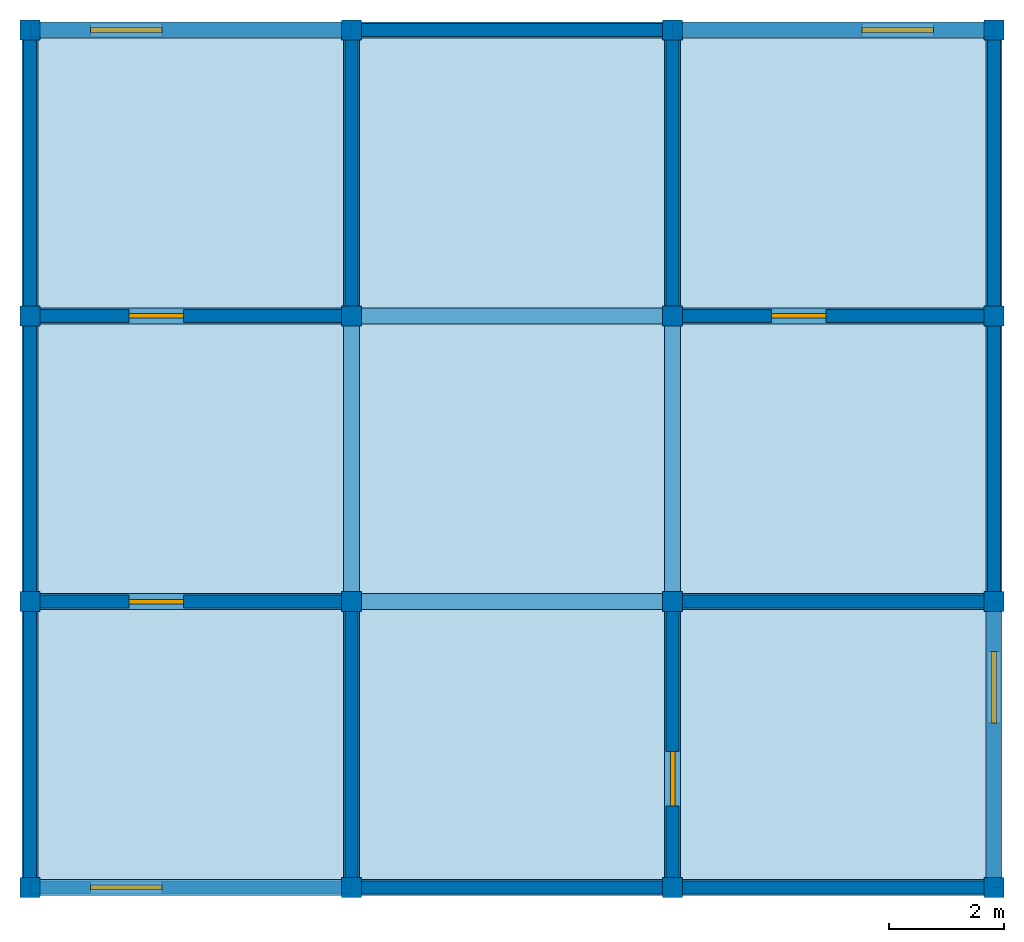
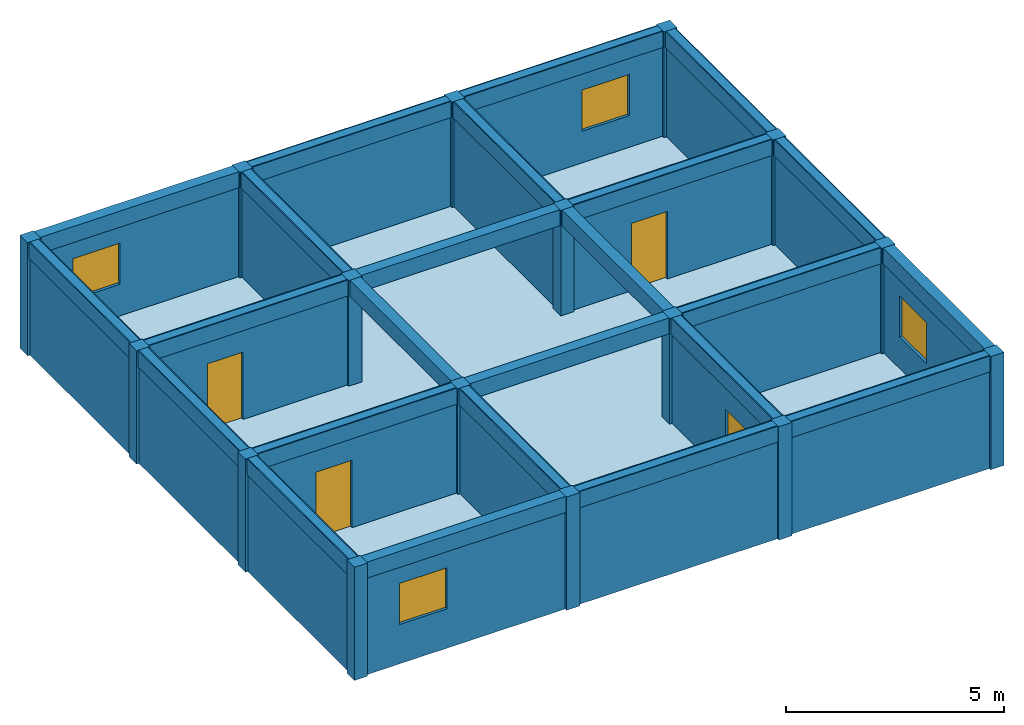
# One storey: 24 beams, 20 walls, 16 columns, 4 doors, 4 windows, 1 slab, 8 openings.
"""IFC4X3 building model written with IfcOpenShell, lengths in metres."""

from ifc_helpers import new_model, si_unit, frame, origin_with_axes, origin_2d, place, context, project, spatial, rectangle, extrude, material, element, fill, save


model = new_model("IFC4X3")

# Units and contexts
model_context = context("Model", 3, precision=1e-05, world=origin_with_axes())
ifc_project = project(units=[si_unit("LENGTHUNIT", "METRE"), si_unit("AREAUNIT", "SQUARE_METRE"), si_unit("VOLUMEUNIT", "CUBIC_METRE")], contexts=[model_context])

# Site, building, storey
site = spatial("IfcSite", under=ifc_project, Name="Puerto Montt Parcel", CompositionType="ELEMENT")
building = spatial("IfcBuilding", under=site, Name="Apex Hub", CompositionType="ELEMENT")
storey = spatial("IfcBuildingStorey", under=building, Name="Level 10", CompositionType="ELEMENT", Elevation=28.5)

# Columns
ifc_material_1 = material(Name="Timber")
column_1_placement = place(None, frame((-8.415, -7.485, 28.505), z_axis=(0.0, 0.0, 1.0), x_axis=(1.0, 0.0, 0.0)))
element("IfcColumn", 1, at=column_1_placement, inside=storey, material=ifc_material_1, Name="Column 10.1", ObjectType="Core Column", PredefinedType="PILASTER", context=model_context, shape_type="SweptSolid", body=[
    extrude(rectangle(XDim=0.35, YDim=0.35, at=origin_2d()), origin_with_axes(), (0.0, 0.0, 1.0), 3.167),
])
column_2_placement = place(None, frame((-8.415, -2.495, 28.505), z_axis=(0.0, 0.0, 1.0), x_axis=(1.0, 0.0, 0.0)))
element("IfcColumn", 2, at=column_2_placement, inside=storey, material=ifc_material_1, Name="Column 10.2", ObjectType="Core Column", PredefinedType="NOTDEFINED", context=model_context, shape_type="SweptSolid", body=[
    extrude(rectangle(XDim=0.35, YDim=0.35, at=origin_2d()), origin_with_axes(), (0.0, 0.0, 1.0), 3.167),
])
column_3_placement = place(None, frame((-8.415, 2.495, 28.505), z_axis=(0.0, 0.0, 1.0), x_axis=(1.0, 0.0, 0.0)))
element("IfcColumn", 3, at=column_3_placement, inside=storey, material=ifc_material_1, Name="Column 10.3", ObjectType="Structural Column", PredefinedType="USERDEFINED", context=model_context, shape_type="SweptSolid", body=[
    extrude(rectangle(XDim=0.35, YDim=0.35, at=origin_2d()), origin_with_axes(), (0.0, 0.0, 1.0), 3.167),
])
for number, where, z_axis, x_axis, name in (
    (4, (-8.415, 7.485, 28.505), (0.0, 0.0, 1.0), (1.0, 0.0, 0.0), "Column 10.4"),
    (5, (-2.805, -7.485, 28.505), (0.0, 0.0, 1.0), (1.0, 0.0, 0.0), "Column 10.5"),
):
    element("IfcColumn", number, at=place(None, frame(where, z_axis=z_axis, x_axis=x_axis)), inside=storey, material=ifc_material_1, Name=name, ObjectType="Structural Column", PredefinedType="COLUMN", context=model_context, shape_type="SweptSolid", body=[
        extrude(rectangle(XDim=0.35, YDim=0.35, at=origin_2d()), origin_with_axes(), (0.0, 0.0, 1.0), 3.167),
    ])
column_4_placement = place(None, frame((-2.805, -2.495, 28.505), z_axis=(0.0, 0.0, 1.0), x_axis=(1.0, 0.0, 0.0)))
element("IfcColumn", 6, at=column_4_placement, inside=storey, material=ifc_material_1, Name="Column 10.6", ObjectType="Core Column", PredefinedType="PILASTER", context=model_context, shape_type="SweptSolid", body=[
    extrude(rectangle(XDim=0.35, YDim=0.35, at=origin_2d()), origin_with_axes(), (0.0, 0.0, 1.0), 3.167),
])
column_5_placement = place(None, frame((-2.805, 2.495, 28.505), z_axis=(0.0, 0.0, 1.0), x_axis=(1.0, 0.0, 0.0)))
element("IfcColumn", 7, at=column_5_placement, inside=storey, material=ifc_material_1, Name="Column 10.7", ObjectType="Corner Column", PredefinedType="COLUMN", context=model_context, shape_type="SweptSolid", body=[
    extrude(rectangle(XDim=0.35, YDim=0.35, at=origin_2d()), origin_with_axes(), (0.0, 0.0, 1.0), 3.167),
])
column_6_placement = place(None, frame((-2.805, 7.485, 28.505), z_axis=(0.0, 0.0, 1.0), x_axis=(1.0, 0.0, 0.0)))
element("IfcColumn", 8, at=column_6_placement, inside=storey, material=ifc_material_1, Name="Column 10.8", ObjectType="Core Column", PredefinedType="COLUMN", context=model_context, shape_type="SweptSolid", body=[
    extrude(rectangle(XDim=0.35, YDim=0.35, at=origin_2d()), origin_with_axes(), (0.0, 0.0, 1.0), 3.167),
])
column_7_placement = place(None, frame((2.805, -7.485, 28.505), z_axis=(0.0, 0.0, 1.0), x_axis=(1.0, 0.0, 0.0)))
element("IfcColumn", 9, at=column_7_placement, inside=storey, material=ifc_material_1, Name="Column 10.9", ObjectType="Facade Column", PredefinedType="USERDEFINED", context=model_context, shape_type="SweptSolid", body=[
    extrude(rectangle(XDim=0.35, YDim=0.35, at=origin_2d()), origin_with_axes(), (0.0, 0.0, 1.0), 3.167),
])
column_8_placement = place(None, frame((2.805, -2.495, 28.505), z_axis=(0.0, 0.0, 1.0), x_axis=(1.0, 0.0, 0.0)))
element("IfcColumn", 10, at=column_8_placement, inside=storey, material=ifc_material_1, Name="Column 10.10", ObjectType="Corner Column", PredefinedType="USERDEFINED", context=model_context, shape_type="SweptSolid", body=[
    extrude(rectangle(XDim=0.35, YDim=0.35, at=origin_2d()), origin_with_axes(), (0.0, 0.0, 1.0), 3.167),
])
column_9_placement = place(None, frame((2.805, 2.495, 28.505), z_axis=(0.0, 0.0, 1.0), x_axis=(1.0, 0.0, 0.0)))
element("IfcColumn", 11, at=column_9_placement, inside=storey, material=ifc_material_1, Name="Column 10.11", ObjectType="Core Column", PredefinedType="COLUMN", context=model_context, shape_type="SweptSolid", body=[
    extrude(rectangle(XDim=0.35, YDim=0.35, at=origin_2d()), origin_with_axes(), (0.0, 0.0, 1.0), 3.167),
])
column_10_placement = place(None, frame((2.805, 7.485, 28.505), z_axis=(0.0, 0.0, 1.0), x_axis=(1.0, 0.0, 0.0)))
element("IfcColumn", 12, at=column_10_placement, inside=storey, material=ifc_material_1, Name="Column 10.12", ObjectType="Corner Column", PredefinedType="PILASTER", context=model_context, shape_type="SweptSolid", body=[
    extrude(rectangle(XDim=0.35, YDim=0.35, at=origin_2d()), origin_with_axes(), (0.0, 0.0, 1.0), 3.167),
])
column_11_placement = place(None, frame((8.415, -7.485, 28.505), z_axis=(0.0, 0.0, 1.0), x_axis=(1.0, 0.0, 0.0)))
element("IfcColumn", 13, at=column_11_placement, inside=storey, material=ifc_material_1, Name="Column 10.13", ObjectType="Core Column", PredefinedType="USERDEFINED", context=model_context, shape_type="SweptSolid", body=[
    extrude(rectangle(XDim=0.35, YDim=0.35, at=origin_2d()), origin_with_axes(), (0.0, 0.0, 1.0), 3.167),
])
column_12_placement = place(None, frame((8.415, -2.495, 28.505), z_axis=(0.0, 0.0, 1.0), x_axis=(1.0, 0.0, 0.0)))
element("IfcColumn", 14, at=column_12_placement, inside=storey, material=ifc_material_1, Name="Column 10.14", ObjectType="Facade Column", PredefinedType="USERDEFINED", context=model_context, shape_type="SweptSolid", body=[
    extrude(rectangle(XDim=0.35, YDim=0.35, at=origin_2d()), origin_with_axes(), (0.0, 0.0, 1.0), 3.167),
])
column_13_placement = place(None, frame((8.415, 2.495, 28.505), z_axis=(0.0, 0.0, 1.0), x_axis=(1.0, 0.0, 0.0)))
element("IfcColumn", 15, at=column_13_placement, inside=storey, material=ifc_material_1, Name="Column 10.15", ObjectType="Facade Column", PredefinedType="COLUMN", context=model_context, shape_type="SweptSolid", body=[
    extrude(rectangle(XDim=0.35, YDim=0.35, at=origin_2d()), origin_with_axes(), (0.0, 0.0, 1.0), 3.167),
])
column_14_placement = place(None, frame((8.415, 7.485, 28.505), z_axis=(0.0, 0.0, 1.0), x_axis=(1.0, 0.0, 0.0)))
element("IfcColumn", 16, at=column_14_placement, inside=storey, material=ifc_material_1, Name="Column 10.16", ObjectType="Structural Column", PredefinedType="NOTDEFINED", context=model_context, shape_type="SweptSolid", body=[
    extrude(rectangle(XDim=0.35, YDim=0.35, at=origin_2d()), origin_with_axes(), (0.0, 0.0, 1.0), 3.167),
])

# Beams
ifc_material_2 = material(Name="Concrete")
beam_1_placement = place(None, frame((-5.61, -7.485, 31.222), z_axis=(0.0, 0.0, 1.0), x_axis=(1.0, 0.0, 0.0)))
element("IfcBeam", 17, at=beam_1_placement, inside=storey, material=ifc_material_2, Name="Beam 10.1", ObjectType="Rafter Beam", PredefinedType="LINTEL", context=model_context, shape_type="SweptSolid", body=[
    extrude(rectangle(XDim=5.61, YDim=0.28, at=origin_2d()), origin_with_axes(), (0.0, 0.0, 1.0), 0.45),
])
beam_2_placement = place(None, frame((0.0, -7.485, 31.222), z_axis=(0.0, 0.0, 1.0), x_axis=(1.0, 0.0, 0.0)))
element("IfcBeam", 18, at=beam_2_placement, inside=storey, material=ifc_material_2, Name="Beam 10.2", ObjectType="Primary Beam", PredefinedType="HOLLOWCORE", context=model_context, shape_type="SweptSolid", body=[
    extrude(rectangle(XDim=5.61, YDim=0.28, at=origin_2d()), origin_with_axes(), (0.0, 0.0, 1.0), 0.45),
])
beam_3_placement = place(None, frame((5.61, -7.485, 31.222), z_axis=(0.0, 0.0, 1.0), x_axis=(1.0, 0.0, 0.0)))
element("IfcBeam", 19, at=beam_3_placement, inside=storey, material=ifc_material_2, Name="Beam 10.3", ObjectType="Transfer Beam", PredefinedType="T_BEAM", context=model_context, shape_type="SweptSolid", body=[
    extrude(rectangle(XDim=5.61, YDim=0.28, at=origin_2d()), origin_with_axes(), (0.0, 0.0, 1.0), 0.45),
])
beam_4_placement = place(None, frame((-5.61, -2.495, 31.222), z_axis=(0.0, 0.0, 1.0), x_axis=(1.0, 0.0, 0.0)))
element("IfcBeam", 20, at=beam_4_placement, inside=storey, material=ifc_material_2, Name="Beam 10.4", ObjectType="Ridge Beam", PredefinedType="NOTDEFINED", context=model_context, shape_type="SweptSolid", body=[
    extrude(rectangle(XDim=5.61, YDim=0.28, at=origin_2d()), origin_with_axes(), (0.0, 0.0, 1.0), 0.45),
])
for number, where, z_axis, x_axis, name in (
    (21, (0.0, -2.495, 31.222), (0.0, 0.0, 1.0), (1.0, 0.0, 0.0), "Beam 10.5"),
    (22, (5.61, -2.495, 31.222), (0.0, 0.0, 1.0), (1.0, 0.0, 0.0), "Beam 10.6"),
    (23, (-5.61, 2.495, 31.222), (0.0, 0.0, 1.0), (1.0, 0.0, 0.0), "Beam 10.7"),
):
    element("IfcBeam", number, at=place(None, frame(where, z_axis=z_axis, x_axis=x_axis)), inside=storey, material=ifc_material_2, Name=name, ObjectType="Transfer Beam", PredefinedType="HOLLOWCORE", context=model_context, shape_type="SweptSolid", body=[
        extrude(rectangle(XDim=5.61, YDim=0.28, at=origin_2d()), origin_with_axes(), (0.0, 0.0, 1.0), 0.45),
    ])
beam_5_placement = place(None, frame((0.0, 2.495, 31.222), z_axis=(0.0, 0.0, 1.0), x_axis=(1.0, 0.0, 0.0)))
element("IfcBeam", 24, at=beam_5_placement, inside=storey, material=ifc_material_2, Name="Beam 10.8", ObjectType="Rafter Beam", PredefinedType="NOTDEFINED", context=model_context, shape_type="SweptSolid", body=[
    extrude(rectangle(XDim=5.61, YDim=0.28, at=origin_2d()), origin_with_axes(), (0.0, 0.0, 1.0), 0.45),
])
beam_6_placement = place(None, frame((5.61, 2.495, 31.222), z_axis=(0.0, 0.0, 1.0), x_axis=(1.0, 0.0, 0.0)))
element("IfcBeam", 25, at=beam_6_placement, inside=storey, material=ifc_material_2, Name="Beam 10.9", ObjectType="Rafter Beam", PredefinedType="BEAM", context=model_context, shape_type="SweptSolid", body=[
    extrude(rectangle(XDim=5.61, YDim=0.28, at=origin_2d()), origin_with_axes(), (0.0, 0.0, 1.0), 0.45),
])
beam_7_placement = place(None, frame((-5.61, 7.485, 31.222), z_axis=(0.0, 0.0, 1.0), x_axis=(1.0, 0.0, 0.0)))
element("IfcBeam", 26, at=beam_7_placement, inside=storey, material=ifc_material_2, Name="Beam 10.10", ObjectType="Transfer Beam", PredefinedType="BEAM", context=model_context, shape_type="SweptSolid", body=[
    extrude(rectangle(XDim=5.61, YDim=0.28, at=origin_2d()), origin_with_axes(), (0.0, 0.0, 1.0), 0.45),
])
beam_8_placement = place(None, frame((0.0, 7.485, 31.222), z_axis=(0.0, 0.0, 1.0), x_axis=(1.0, 0.0, 0.0)))
element("IfcBeam", 27, at=beam_8_placement, inside=storey, material=ifc_material_2, Name="Beam 10.11", ObjectType="Primary Beam", PredefinedType="NOTDEFINED", context=model_context, shape_type="SweptSolid", body=[
    extrude(rectangle(XDim=5.61, YDim=0.28, at=origin_2d()), origin_with_axes(), (0.0, 0.0, 1.0), 0.45),
])
beam_9_placement = place(None, frame((5.61, 7.485, 31.222), z_axis=(0.0, 0.0, 1.0), x_axis=(1.0, 0.0, 0.0)))
element("IfcBeam", 28, at=beam_9_placement, inside=storey, material=ifc_material_2, Name="Beam 10.12", ObjectType="Rafter Beam", PredefinedType="T_BEAM", context=model_context, shape_type="SweptSolid", body=[
    extrude(rectangle(XDim=5.61, YDim=0.28, at=origin_2d()), origin_with_axes(), (0.0, 0.0, 1.0), 0.45),
])
beam_10_placement = place(None, frame((-8.415, -4.99, 31.222), z_axis=(0.0, 0.0, 1.0), x_axis=(0.0, 1.0, 0.0)))
element("IfcBeam", 29, at=beam_10_placement, inside=storey, material=ifc_material_2, Name="Beam 10.13", ObjectType="Ridge Beam", PredefinedType="BEAM", context=model_context, shape_type="SweptSolid", body=[
    extrude(rectangle(XDim=4.99, YDim=0.28, at=origin_2d()), origin_with_axes(), (0.0, 0.0, 1.0), 0.45),
])
beam_11_placement = place(None, frame((-8.415, 0.0, 31.222), z_axis=(0.0, 0.0, 1.0), x_axis=(0.0, 1.0, 0.0)))
element("IfcBeam", 30, at=beam_11_placement, inside=storey, material=ifc_material_2, Name="Beam 10.14", ObjectType="Primary Beam", PredefinedType="HOLLOWCORE", context=model_context, shape_type="SweptSolid", body=[
    extrude(rectangle(XDim=4.99, YDim=0.28, at=origin_2d()), origin_with_axes(), (0.0, 0.0, 1.0), 0.45),
])
beam_12_placement = place(None, frame((-8.415, 4.99, 31.222), z_axis=(0.0, 0.0, 1.0), x_axis=(0.0, 1.0, 0.0)))
element("IfcBeam", 31, at=beam_12_placement, inside=storey, material=ifc_material_2, Name="Beam 10.15", ObjectType="Rafter Beam", PredefinedType="USERDEFINED", context=model_context, shape_type="SweptSolid", body=[
    extrude(rectangle(XDim=4.99, YDim=0.28, at=origin_2d()), origin_with_axes(), (0.0, 0.0, 1.0), 0.45),
])
beam_13_placement = place(None, frame((-2.805, -4.99, 31.222), z_axis=(0.0, 0.0, 1.0), x_axis=(0.0, 1.0, 0.0)))
element("IfcBeam", 32, at=beam_13_placement, inside=storey, material=ifc_material_2, Name="Beam 10.16", ObjectType="Primary Beam", PredefinedType="JOIST", context=model_context, shape_type="SweptSolid", body=[
    extrude(rectangle(XDim=4.99, YDim=0.28, at=origin_2d()), origin_with_axes(), (0.0, 0.0, 1.0), 0.45),
])
beam_14_placement = place(None, frame((-2.805, 0.0, 31.222), z_axis=(0.0, 0.0, 1.0), x_axis=(0.0, 1.0, 0.0)))
element("IfcBeam", 33, at=beam_14_placement, inside=storey, material=ifc_material_2, Name="Beam 10.17", ObjectType="Secondary Beam", PredefinedType="NOTDEFINED", context=model_context, shape_type="SweptSolid", body=[
    extrude(rectangle(XDim=4.99, YDim=0.28, at=origin_2d()), origin_with_axes(), (0.0, 0.0, 1.0), 0.45),
])
beam_15_placement = place(None, frame((-2.805, 4.99, 31.222), z_axis=(0.0, 0.0, 1.0), x_axis=(0.0, 1.0, 0.0)))
element("IfcBeam", 34, at=beam_15_placement, inside=storey, material=ifc_material_2, Name="Beam 10.18", ObjectType="Secondary Beam", PredefinedType="BEAM", context=model_context, shape_type="SweptSolid", body=[
    extrude(rectangle(XDim=4.99, YDim=0.28, at=origin_2d()), origin_with_axes(), (0.0, 0.0, 1.0), 0.45),
])
beam_16_placement = place(None, frame((2.805, -4.99, 31.222), z_axis=(0.0, 0.0, 1.0), x_axis=(0.0, 1.0, 0.0)))
element("IfcBeam", 35, at=beam_16_placement, inside=storey, material=ifc_material_2, Name="Beam 10.19", ObjectType="Secondary Beam", PredefinedType="JOIST", context=model_context, shape_type="SweptSolid", body=[
    extrude(rectangle(XDim=4.99, YDim=0.28, at=origin_2d()), origin_with_axes(), (0.0, 0.0, 1.0), 0.45),
])
beam_17_placement = place(None, frame((2.805, 0.0, 31.222), z_axis=(0.0, 0.0, 1.0), x_axis=(0.0, 1.0, 0.0)))
element("IfcBeam", 36, at=beam_17_placement, inside=storey, material=ifc_material_2, Name="Beam 10.20", ObjectType="Primary Beam", PredefinedType="JOIST", context=model_context, shape_type="SweptSolid", body=[
    extrude(rectangle(XDim=4.99, YDim=0.28, at=origin_2d()), origin_with_axes(), (0.0, 0.0, 1.0), 0.45),
])
beam_18_placement = place(None, frame((2.805, 4.99, 31.222), z_axis=(0.0, 0.0, 1.0), x_axis=(0.0, 1.0, 0.0)))
element("IfcBeam", 37, at=beam_18_placement, inside=storey, material=ifc_material_2, Name="Beam 10.21", ObjectType="Secondary Beam", PredefinedType="T_BEAM", context=model_context, shape_type="SweptSolid", body=[
    extrude(rectangle(XDim=4.99, YDim=0.28, at=origin_2d()), origin_with_axes(), (0.0, 0.0, 1.0), 0.45),
])
beam_19_placement = place(None, frame((8.415, -4.99, 31.222), z_axis=(0.0, 0.0, 1.0), x_axis=(0.0, 1.0, 0.0)))
element("IfcBeam", 38, at=beam_19_placement, inside=storey, material=ifc_material_2, Name="Beam 10.22", ObjectType="Ridge Beam", PredefinedType="JOIST", context=model_context, shape_type="SweptSolid", body=[
    extrude(rectangle(XDim=4.99, YDim=0.28, at=origin_2d()), origin_with_axes(), (0.0, 0.0, 1.0), 0.45),
])
beam_20_placement = place(None, frame((8.415, 0.0, 31.222), z_axis=(0.0, 0.0, 1.0), x_axis=(0.0, 1.0, 0.0)))
element("IfcBeam", 39, at=beam_20_placement, inside=storey, material=ifc_material_2, Name="Beam 10.23", ObjectType="Transfer Beam", PredefinedType="HOLLOWCORE", context=model_context, shape_type="SweptSolid", body=[
    extrude(rectangle(XDim=4.99, YDim=0.28, at=origin_2d()), origin_with_axes(), (0.0, 0.0, 1.0), 0.45),
])
beam_21_placement = place(None, frame((8.415, 4.99, 31.222), z_axis=(0.0, 0.0, 1.0), x_axis=(0.0, 1.0, 0.0)))
element("IfcBeam", 40, at=beam_21_placement, inside=storey, material=ifc_material_2, Name="Beam 10.24", ObjectType="Transfer Beam", PredefinedType="T_BEAM", context=model_context, shape_type="SweptSolid", body=[
    extrude(rectangle(XDim=4.99, YDim=0.28, at=origin_2d()), origin_with_axes(), (0.0, 0.0, 1.0), 0.45),
])

# Slab
slab_placement = place(None, frame((0.0, 0.0, 28.5), z_axis=(0.0, 0.0, 1.0), x_axis=(1.0, 0.0, 0.0)))
element("IfcSlab", 41, at=slab_placement, inside=storey, material=ifc_material_1, Name="Slab 10", ObjectType="Floor Slab", PredefinedType="FLOOR", context=model_context, shape_type="SweptSolid", body=[
    extrude(rectangle(XDim=16.83, YDim=14.97, at=origin_2d()), origin_with_axes(), (0.0, 0.0, 1.0), 0.22),
])

# Wall, opening, door
ifc_material_3 = material(Name="CLT")
wall_1_placement = place(None, frame((-5.61, -2.495, 28.505), z_axis=(0.0, 0.0, 1.0), x_axis=(1.0, 0.0, 0.0)))
wall_1 = element("IfcWall", 42, at=wall_1_placement, inside=storey, material=ifc_material_3, Name="Wall 10.1", ObjectType="Corridor Partition", PredefinedType="STANDARD", context=model_context, shape_type="SweptSolid", body=[
    extrude(rectangle(XDim=5.61, YDim=0.227938, at=origin_2d()), origin_with_axes(), (0.0, 0.0, 1.0), 3.167),
])
opening_1_placement = place(None, frame((-6.21, -2.495, 28.505), z_axis=(0.0, 0.0, 1.0), x_axis=(1.0, 0.0, 0.0)))
opening_1 = element("IfcOpeningElement", 43, at=opening_1_placement, cuts=wall_1, Name="Door opening 10.1", ObjectType="Door Opening", PredefinedType="OPENING", context=model_context, shape_type="SweptSolid", body=[
    extrude(rectangle(XDim=0.95, YDim=0.307938, at=origin_2d()), origin_with_axes(), (0.0, 0.0, 1.0), 2.1),
])
door_1_placement = place(None, frame((-6.21, -2.495, 28.505), z_axis=(0.0, 0.0, 1.0), x_axis=(1.0, 0.0, 0.0)))
door_1 = element("IfcDoor", 44, at=door_1_placement, inside=storey, Name="Door 10.1", ObjectType="Entry Door", OverallHeight=2.1, OverallWidth=0.95, context=model_context, shape_type="SweptSolid", body=[
    extrude(rectangle(XDim=0.95, YDim=0.08, at=origin_2d()), origin_with_axes(), (0.0, 0.0, 1.0), 2.1),
])
fill(opening_1, door_1)

# Wall
wall_2_placement = place(None, frame((-2.805, -4.99, 28.505), z_axis=(0.0, 0.0, 1.0), x_axis=(0.0, 1.0, 0.0)))
element("IfcWall", 45, at=wall_2_placement, inside=storey, material=ifc_material_3, Name="Wall 10.2", ObjectType="Corridor Partition", PredefinedType="MOVABLE", context=model_context, shape_type="SweptSolid", body=[
    extrude(rectangle(XDim=4.99, YDim=0.227938, at=origin_2d()), origin_with_axes(), (0.0, 0.0, 1.0), 3.167),
])

# Wall, opening, window
ifc_material_4 = material(Name="Brick")
wall_3_placement = place(None, frame((-5.61, -7.485, 28.505), z_axis=(0.0, 0.0, 1.0), x_axis=(1.0, 0.0, 0.0)))
wall_3 = element("IfcWall", 46, at=wall_3_placement, inside=storey, material=ifc_material_4, Name="Wall 10.3", ObjectType="Exterior Wall", PredefinedType="POLYGONAL", context=model_context, shape_type="SweptSolid", body=[
    extrude(rectangle(XDim=5.61, YDim=0.227938, at=origin_2d()), origin_with_axes(), (0.0, 0.0, 1.0), 3.167),
])
opening_2_placement = place(None, frame((-6.732, -7.485, 29.605), z_axis=(0.0, 0.0, 1.0), x_axis=(1.0, 0.0, 0.0)))
opening_2 = element("IfcOpeningElement", 47, at=opening_2_placement, cuts=wall_3, Name="Window opening 10.2", ObjectType="Window Opening", PredefinedType="OPENING", context=model_context, shape_type="SweptSolid", body=[
    extrude(rectangle(XDim=1.25, YDim=0.307938, at=origin_2d()), origin_with_axes(), (0.0, 0.0, 1.0), 1.15),
])
window_1_placement = place(None, frame((-6.732, -7.485, 29.605), z_axis=(0.0, 0.0, 1.0), x_axis=(1.0, 0.0, 0.0)))
window_1 = element("IfcWindow", 48, at=window_1_placement, inside=storey, Name="Window 10.2", ObjectType="Sliding Window", OverallHeight=1.15, OverallWidth=1.25, context=model_context, shape_type="SweptSolid", body=[
    extrude(rectangle(XDim=1.25, YDim=0.08, at=origin_2d()), origin_with_axes(), (0.0, 0.0, 1.0), 1.15),
])
fill(opening_2, window_1)

# Wall
ifc_material_5 = material(Name="Gypsum")
wall_4_placement = place(None, frame((-8.415, -4.99, 28.505), z_axis=(0.0, 0.0, 1.0), x_axis=(0.0, 1.0, 0.0)))
element("IfcWall", 49, at=wall_4_placement, inside=storey, material=ifc_material_5, Name="Wall 10.4", ObjectType="Exterior Wall", PredefinedType="MOVABLE", context=model_context, shape_type="SweptSolid", body=[
    extrude(rectangle(XDim=4.99, YDim=0.227938, at=origin_2d()), origin_with_axes(), (0.0, 0.0, 1.0), 3.167),
])

# Wall, opening, door
wall_5_placement = place(None, frame((2.805, -4.99, 28.505), z_axis=(0.0, 0.0, 1.0), x_axis=(0.0, 1.0, 0.0)))
wall_5 = element("IfcWall", 50, at=wall_5_placement, inside=storey, material=ifc_material_2, Name="Wall 10.5", ObjectType="Corridor Partition", PredefinedType="STANDARD", context=model_context, shape_type="SweptSolid", body=[
    extrude(rectangle(XDim=4.99, YDim=0.227938, at=origin_2d()), origin_with_axes(), (0.0, 0.0, 1.0), 3.167),
])
opening_3_placement = place(None, frame((2.805, -5.59, 28.505), z_axis=(0.0, 0.0, 1.0), x_axis=(0.0, 1.0, 0.0)))
opening_3 = element("IfcOpeningElement", 51, at=opening_3_placement, cuts=wall_5, Name="Door opening 10.3", ObjectType="Door Opening", PredefinedType="OPENING", context=model_context, shape_type="SweptSolid", body=[
    extrude(rectangle(XDim=0.95, YDim=0.307938, at=origin_2d()), origin_with_axes(), (0.0, 0.0, 1.0), 2.1),
])
door_2_placement = place(None, frame((2.805, -5.59, 28.505), z_axis=(0.0, 0.0, 1.0), x_axis=(0.0, 1.0, 0.0)))
door_2 = element("IfcDoor", 52, at=door_2_placement, inside=storey, Name="Door 10.3", ObjectType="Entry Door", OverallHeight=2.1, OverallWidth=0.95, context=model_context, shape_type="SweptSolid", body=[
    extrude(rectangle(XDim=0.95, YDim=0.08, at=origin_2d()), origin_with_axes(), (0.0, 0.0, 1.0), 2.1),
])
fill(opening_3, door_2)

# Walls
wall_6_placement = place(None, frame((0.0, -7.485, 28.505), z_axis=(0.0, 0.0, 1.0), x_axis=(1.0, 0.0, 0.0)))
element("IfcWall", 53, at=wall_6_placement, inside=storey, material=ifc_material_5, Name="Wall 10.6", ObjectType="Exterior Wall", PredefinedType="ELEMENTEDWALL", context=model_context, shape_type="SweptSolid", body=[
    extrude(rectangle(XDim=5.61, YDim=0.227938, at=origin_2d()), origin_with_axes(), (0.0, 0.0, 1.0), 3.167),
])
wall_7_placement = place(None, frame((5.61, -2.495, 28.505), z_axis=(0.0, 0.0, 1.0), x_axis=(1.0, 0.0, 0.0)))
element("IfcWall", 54, at=wall_7_placement, inside=storey, material=ifc_material_5, Name="Wall 10.7", ObjectType="Corridor Partition", PredefinedType="SOLIDWALL", context=model_context, shape_type="SweptSolid", body=[
    extrude(rectangle(XDim=5.61, YDim=0.227938, at=origin_2d()), origin_with_axes(), (0.0, 0.0, 1.0), 3.167),
])

# Wall, opening, window
wall_8_placement = place(None, frame((8.415, -4.99, 28.505), z_axis=(0.0, 0.0, 1.0), x_axis=(0.0, 1.0, 0.0)))
wall_8 = element("IfcWall", 55, at=wall_8_placement, inside=storey, material=ifc_material_5, Name="Wall 10.8", ObjectType="Exterior Wall", PredefinedType="PLUMBINGWALL", context=model_context, shape_type="SweptSolid", body=[
    extrude(rectangle(XDim=4.99, YDim=0.227938, at=origin_2d()), origin_with_axes(), (0.0, 0.0, 1.0), 3.167),
])
opening_4_placement = place(None, frame((8.415, -3.992, 29.605), z_axis=(0.0, 0.0, 1.0), x_axis=(0.0, 1.0, 0.0)))
opening_4 = element("IfcOpeningElement", 56, at=opening_4_placement, cuts=wall_8, Name="Window opening 10.4", ObjectType="Window Opening", PredefinedType="OPENING", context=model_context, shape_type="SweptSolid", body=[
    extrude(rectangle(XDim=1.25, YDim=0.307938, at=origin_2d()), origin_with_axes(), (0.0, 0.0, 1.0), 1.15),
])
window_2_placement = place(None, frame((8.415, -3.992, 29.605), z_axis=(0.0, 0.0, 1.0), x_axis=(0.0, 1.0, 0.0)))
window_2 = element("IfcWindow", 57, at=window_2_placement, inside=storey, Name="Window 10.4", ObjectType="Curtain Window", OverallHeight=1.15, OverallWidth=1.25, context=model_context, shape_type="SweptSolid", body=[
    extrude(rectangle(XDim=1.25, YDim=0.08, at=origin_2d()), origin_with_axes(), (0.0, 0.0, 1.0), 1.15),
])
fill(opening_4, window_2)

# Wall
wall_9_placement = place(None, frame((5.61, -7.485, 28.505), z_axis=(0.0, 0.0, 1.0), x_axis=(1.0, 0.0, 0.0)))
element("IfcWall", 58, at=wall_9_placement, inside=storey, material=ifc_material_2, Name="Wall 10.9", ObjectType="Exterior Wall", PredefinedType="MOVABLE", context=model_context, shape_type="SweptSolid", body=[
    extrude(rectangle(XDim=5.61, YDim=0.227938, at=origin_2d()), origin_with_axes(), (0.0, 0.0, 1.0), 3.167),
])

# Wall, opening, door
wall_10_placement = place(None, frame((-5.61, 2.495, 28.505), z_axis=(0.0, 0.0, 1.0), x_axis=(1.0, 0.0, 0.0)))
wall_10 = element("IfcWall", 59, at=wall_10_placement, inside=storey, material=ifc_material_3, Name="Wall 10.10", ObjectType="Corridor Partition", PredefinedType="POLYGONAL", context=model_context, shape_type="SweptSolid", body=[
    extrude(rectangle(XDim=5.61, YDim=0.227938, at=origin_2d()), origin_with_axes(), (0.0, 0.0, 1.0), 3.167),
])
opening_5_placement = place(None, frame((-6.21, 2.495, 28.505), z_axis=(0.0, 0.0, 1.0), x_axis=(1.0, 0.0, 0.0)))
opening_5 = element("IfcOpeningElement", 60, at=opening_5_placement, cuts=wall_10, Name="Door opening 10.5", ObjectType="Door Opening", PredefinedType="OPENING", context=model_context, shape_type="SweptSolid", body=[
    extrude(rectangle(XDim=0.95, YDim=0.307938, at=origin_2d()), origin_with_axes(), (0.0, 0.0, 1.0), 2.1),
])
door_3_placement = place(None, frame((-6.21, 2.495, 28.505), z_axis=(0.0, 0.0, 1.0), x_axis=(1.0, 0.0, 0.0)))
door_3 = element("IfcDoor", 61, at=door_3_placement, inside=storey, Name="Door 10.5", ObjectType="Fire Door", OverallHeight=2.1, OverallWidth=0.95, context=model_context, shape_type="SweptSolid", body=[
    extrude(rectangle(XDim=0.95, YDim=0.08, at=origin_2d()), origin_with_axes(), (0.0, 0.0, 1.0), 2.1),
])
fill(opening_5, door_3)

# Wall
wall_11_placement = place(None, frame((-8.415, 0.0, 28.505), z_axis=(0.0, 0.0, 1.0), x_axis=(0.0, 1.0, 0.0)))
element("IfcWall", 62, at=wall_11_placement, inside=storey, material=ifc_material_2, Name="Wall 10.11", ObjectType="Exterior Wall", PredefinedType="POLYGONAL", context=model_context, shape_type="SweptSolid", body=[
    extrude(rectangle(XDim=4.99, YDim=0.227938, at=origin_2d()), origin_with_axes(), (0.0, 0.0, 1.0), 3.167),
])

# Wall, opening, door
wall_12_placement = place(None, frame((5.61, 2.495, 28.505), z_axis=(0.0, 0.0, 1.0), x_axis=(1.0, 0.0, 0.0)))
wall_12 = element("IfcWall", 63, at=wall_12_placement, inside=storey, material=ifc_material_4, Name="Wall 10.12", ObjectType="Corridor Partition", PredefinedType="MOVABLE", context=model_context, shape_type="SweptSolid", body=[
    extrude(rectangle(XDim=5.61, YDim=0.227938, at=origin_2d()), origin_with_axes(), (0.0, 0.0, 1.0), 3.167),
])
opening_6_placement = place(None, frame((5.01, 2.495, 28.505), z_axis=(0.0, 0.0, 1.0), x_axis=(1.0, 0.0, 0.0)))
opening_6 = element("IfcOpeningElement", 64, at=opening_6_placement, cuts=wall_12, Name="Door opening 10.7", ObjectType="Door Opening", PredefinedType="OPENING", context=model_context, shape_type="SweptSolid", body=[
    extrude(rectangle(XDim=0.95, YDim=0.307938, at=origin_2d()), origin_with_axes(), (0.0, 0.0, 1.0), 2.1),
])
door_4_placement = place(None, frame((5.01, 2.495, 28.505), z_axis=(0.0, 0.0, 1.0), x_axis=(1.0, 0.0, 0.0)))
door_4 = element("IfcDoor", 65, at=door_4_placement, inside=storey, Name="Door 10.7", ObjectType="Entry Door", OverallHeight=2.1, OverallWidth=0.95, context=model_context, shape_type="SweptSolid", body=[
    extrude(rectangle(XDim=0.95, YDim=0.08, at=origin_2d()), origin_with_axes(), (0.0, 0.0, 1.0), 2.1),
])
fill(opening_6, door_4)

# Wall
wall_13_placement = place(None, frame((8.415, 0.0, 28.505), z_axis=(0.0, 0.0, 1.0), x_axis=(0.0, 1.0, 0.0)))
element("IfcWall", 66, at=wall_13_placement, inside=storey, material=ifc_material_2, Name="Wall 10.13", ObjectType="Exterior Wall", PredefinedType="USERDEFINED", context=model_context, shape_type="SweptSolid", body=[
    extrude(rectangle(XDim=4.99, YDim=0.227938, at=origin_2d()), origin_with_axes(), (0.0, 0.0, 1.0), 3.167),
])

# Wall, opening, window
wall_14_placement = place(None, frame((-5.61, 7.485, 28.505), z_axis=(0.0, 0.0, 1.0), x_axis=(1.0, 0.0, 0.0)))
wall_14 = element("IfcWall", 67, at=wall_14_placement, inside=storey, material=ifc_material_5, Name="Wall 10.14", ObjectType="Exterior Wall", PredefinedType="NOTDEFINED", context=model_context, shape_type="SweptSolid", body=[
    extrude(rectangle(XDim=5.61, YDim=0.227938, at=origin_2d()), origin_with_axes(), (0.0, 0.0, 1.0), 3.167),
])
opening_7_placement = place(None, frame((-6.732, 7.485, 29.605), z_axis=(0.0, 0.0, 1.0), x_axis=(1.0, 0.0, 0.0)))
opening_7 = element("IfcOpeningElement", 68, at=opening_7_placement, cuts=wall_14, Name="Window opening 10.6", ObjectType="Window Opening", PredefinedType="OPENING", context=model_context, shape_type="SweptSolid", body=[
    extrude(rectangle(XDim=1.25, YDim=0.307938, at=origin_2d()), origin_with_axes(), (0.0, 0.0, 1.0), 1.15),
])
window_3_placement = place(None, frame((-6.732, 7.485, 29.605), z_axis=(0.0, 0.0, 1.0), x_axis=(1.0, 0.0, 0.0)))
window_3 = element("IfcWindow", 69, at=window_3_placement, inside=storey, Name="Window 10.6", ObjectType="Sliding Window", OverallHeight=1.15, OverallWidth=1.25, context=model_context, shape_type="SweptSolid", body=[
    extrude(rectangle(XDim=1.25, YDim=0.08, at=origin_2d()), origin_with_axes(), (0.0, 0.0, 1.0), 1.15),
])
fill(opening_7, window_3)

# Walls
wall_15_placement = place(None, frame((-2.805, 4.99, 28.505), z_axis=(0.0, 0.0, 1.0), x_axis=(0.0, 1.0, 0.0)))
element("IfcWall", 70, at=wall_15_placement, inside=storey, material=ifc_material_5, Name="Wall 10.15", ObjectType="Corridor Partition", PredefinedType="PLUMBINGWALL", context=model_context, shape_type="SweptSolid", body=[
    extrude(rectangle(XDim=4.99, YDim=0.227938, at=origin_2d()), origin_with_axes(), (0.0, 0.0, 1.0), 3.167),
])
wall_16_placement = place(None, frame((-8.415, 4.99, 28.505), z_axis=(0.0, 0.0, 1.0), x_axis=(0.0, 1.0, 0.0)))
element("IfcWall", 71, at=wall_16_placement, inside=storey, material=ifc_material_2, Name="Wall 10.16", ObjectType="Exterior Wall", PredefinedType="NOTDEFINED", context=model_context, shape_type="SweptSolid", body=[
    extrude(rectangle(XDim=4.99, YDim=0.227938, at=origin_2d()), origin_with_axes(), (0.0, 0.0, 1.0), 3.167),
])
wall_17_placement = place(None, frame((0.0, 7.485, 28.505), z_axis=(0.0, 0.0, 1.0), x_axis=(1.0, 0.0, 0.0)))
element("IfcWall", 72, at=wall_17_placement, inside=storey, material=ifc_material_4, Name="Wall 10.17", ObjectType="Exterior Wall", PredefinedType="SHEAR", context=model_context, shape_type="SweptSolid", body=[
    extrude(rectangle(XDim=5.61, YDim=0.227938, at=origin_2d()), origin_with_axes(), (0.0, 0.0, 1.0), 3.167),
])
wall_18_placement = place(None, frame((2.805, 4.99, 28.505), z_axis=(0.0, 0.0, 1.0), x_axis=(0.0, 1.0, 0.0)))
element("IfcWall", 73, at=wall_18_placement, inside=storey, material=ifc_material_5, Name="Wall 10.18", ObjectType="Corridor Partition", PredefinedType="SHEAR", context=model_context, shape_type="SweptSolid", body=[
    extrude(rectangle(XDim=4.99, YDim=0.227938, at=origin_2d()), origin_with_axes(), (0.0, 0.0, 1.0), 3.167),
])

# Wall, opening, window
wall_19_placement = place(None, frame((5.61, 7.485, 28.505), z_axis=(0.0, 0.0, 1.0), x_axis=(1.0, 0.0, 0.0)))
wall_19 = element("IfcWall", 74, at=wall_19_placement, inside=storey, material=ifc_material_4, Name="Wall 10.19", ObjectType="Exterior Wall", PredefinedType="PLUMBINGWALL", context=model_context, shape_type="SweptSolid", body=[
    extrude(rectangle(XDim=5.61, YDim=0.227938, at=origin_2d()), origin_with_axes(), (0.0, 0.0, 1.0), 3.167),
])
opening_8_placement = place(None, frame((6.732, 7.485, 29.605), z_axis=(0.0, 0.0, 1.0), x_axis=(1.0, 0.0, 0.0)))
opening_8 = element("IfcOpeningElement", 75, at=opening_8_placement, cuts=wall_19, Name="Window opening 10.8", ObjectType="Window Opening", PredefinedType="OPENING", context=model_context, shape_type="SweptSolid", body=[
    extrude(rectangle(XDim=1.25, YDim=0.307938, at=origin_2d()), origin_with_axes(), (0.0, 0.0, 1.0), 1.15),
])
window_4_placement = place(None, frame((6.732, 7.485, 29.605), z_axis=(0.0, 0.0, 1.0), x_axis=(1.0, 0.0, 0.0)))
window_4 = element("IfcWindow", 76, at=window_4_placement, inside=storey, Name="Window 10.8", ObjectType="Curtain Window", OverallHeight=1.15, OverallWidth=1.25, context=model_context, shape_type="SweptSolid", body=[
    extrude(rectangle(XDim=1.25, YDim=0.08, at=origin_2d()), origin_with_axes(), (0.0, 0.0, 1.0), 1.15),
])
fill(opening_8, window_4)

# Wall
wall_20_placement = place(None, frame((8.415, 4.99, 28.505), z_axis=(0.0, 0.0, 1.0), x_axis=(0.0, 1.0, 0.0)))
element("IfcWall", 77, at=wall_20_placement, inside=storey, material=ifc_material_2, Name="Wall 10.20", ObjectType="Exterior Wall", PredefinedType="ELEMENTEDWALL", context=model_context, shape_type="SweptSolid", body=[
    extrude(rectangle(XDim=4.99, YDim=0.227938, at=origin_2d()), origin_with_axes(), (0.0, 0.0, 1.0), 3.167),
])

save(model, "model.ifc")
